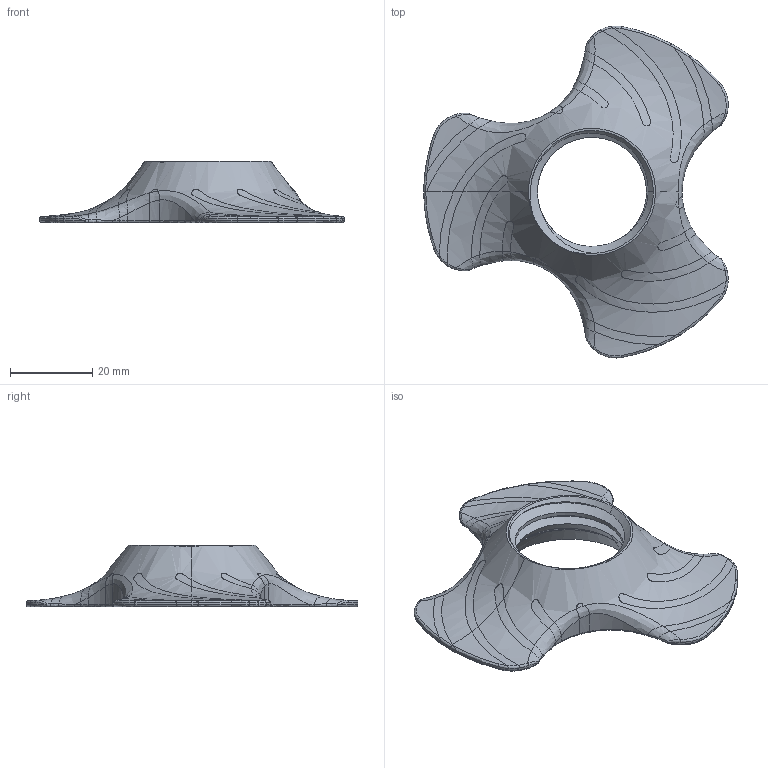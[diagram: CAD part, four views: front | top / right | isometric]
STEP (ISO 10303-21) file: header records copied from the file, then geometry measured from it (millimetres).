
FILE_DESCRIPTION (( 'STEP AP214' ), '1' );
FILE_NAME ('NutCurved_v3.2.STEP', '2019-04-12T14:10:36', ( '' ), ( '' ), 'SwSTEP 2.0', 'SolidWorks 2018', '' );
FILE_SCHEMA (( 'AUTOMOTIVE_DESIGN' ));
Length unit declared in the file: millimetre
Products named in the file (1): NutCurved_v3.2
Bounding box: 74.22 x 80.96 x 15 mm (x, y, z)
Volume: 14669.6 mm3; surface area: 13390.1 mm2
Topology: 16 solids, 16 shells, 455 faces, 1207 edges, 784 vertices
Faces by surface type: bspline 151, cylinder 146, plane 92, torus 48, sphere 12, cone 6
Entity records: 21013 total; most frequent: CARTESIAN_POINT 10909, ORIENTED_EDGE 2402, DIRECTION 1546, EDGE_CURVE 1201, VERTEX_POINT 784, AXIS2_PLACEMENT_3D 629, B_SPLINE_CURVE_WITH_KNOTS 580, EDGE_LOOP 505
